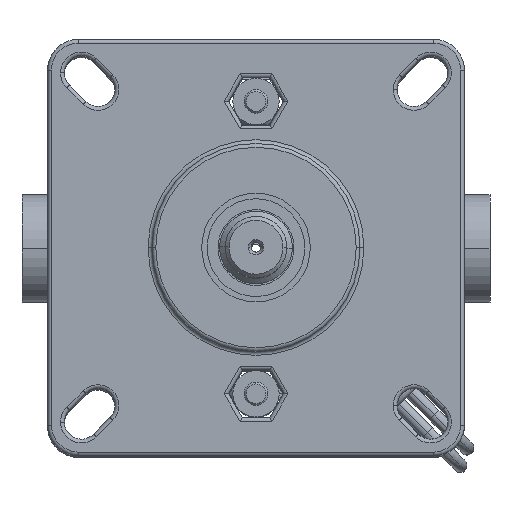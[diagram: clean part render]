
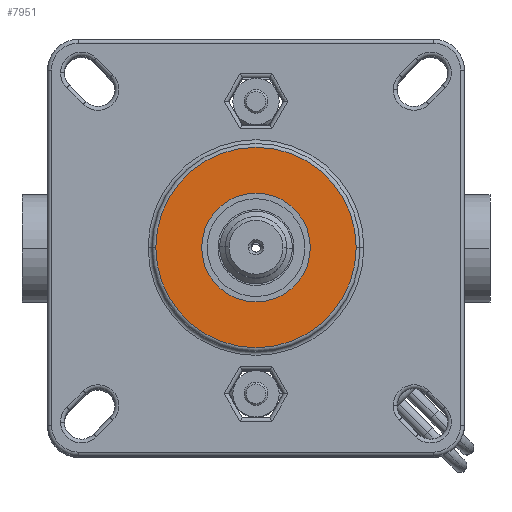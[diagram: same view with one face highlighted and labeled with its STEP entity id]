
A CAD part, top view. The second image highlights one B-rep face of the part: STEP entity #7951.
In plain terms, the highlighted planar face has unit normal (0, 0, 1).
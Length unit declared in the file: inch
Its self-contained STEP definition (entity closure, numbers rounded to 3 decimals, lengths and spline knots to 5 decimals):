
#1251 = CARTESIAN_POINT ( 'NONE',  ( -0.8115, 0., 7.374 ) ) ;
#1252 = DIRECTION ( 'NONE',  ( -1., 0., 0. ) ) ;
#1253 = DIRECTION ( 'NONE',  ( 0., 0., 1. ) ) ;
#1254 = CARTESIAN_POINT ( 'NONE',  ( 0., 0., 7.374 ) ) ;
#1255 = AXIS2_PLACEMENT_3D ( 'NONE', #1254, #1253, #1252 ) ;
#1256 = CIRCLE ( 'NONE', #1255, 0.8115 ) ;
#1257 = CARTESIAN_POINT ( 'NONE',  ( 0.8115, 0., 7.374 ) ) ;
#3309 = DIRECTION ( 'NONE',  ( -1., 0., 0. ) ) ;
#3310 = DIRECTION ( 'NONE',  ( 0., 0., 1. ) ) ;
#3311 = CARTESIAN_POINT ( 'NONE',  ( 0., 0., 7.374 ) ) ;
#3312 = AXIS2_PLACEMENT_3D ( 'NONE', #3311, #3310, #3309 ) ;
#3313 = CIRCLE ( 'NONE', #3312, 0.8115 ) ;
#3314 = DIRECTION ( 'NONE',  ( -1., 0., 0. ) ) ;
#3315 = DIRECTION ( 'NONE',  ( 0., 0., -1. ) ) ;
#3316 = CARTESIAN_POINT ( 'NONE',  ( 0., 0., 7.374 ) ) ;
#3317 = AXIS2_PLACEMENT_3D ( 'NONE', #3316, #3315, #3314 ) ;
#3318 = PLANE ( 'NONE',  #3317 ) ;
#3319 = FACE_BOUND ( 'NONE', #7956, .T. ) ;
#3320 = FACE_OUTER_BOUND ( 'NONE', #7952, .T. ) ;
#3326 = DIRECTION ( 'NONE',  ( -1., 0., 0. ) ) ;
#3327 = DIRECTION ( 'NONE',  ( 0., 0., -1. ) ) ;
#3328 = CARTESIAN_POINT ( 'NONE',  ( 0., 0., 7.374 ) ) ;
#3329 = AXIS2_PLACEMENT_3D ( 'NONE', #3328, #3327, #3326 ) ;
#3334 = CIRCLE ( 'NONE', #3329, 0.44 ) ;
#5596 = VERTEX_POINT ( 'NONE', #10543 ) ;
#5597 = VERTEX_POINT ( 'NONE', #10542 ) ;
#5599 = EDGE_CURVE ( 'NONE', #5596, #5597, #10540, .T. ) ;
#6964 = VERTEX_POINT ( 'NONE', #1257 ) ;
#6965 = EDGE_CURVE ( 'NONE', #6964, #6966, #1256, .T. ) ;
#6966 = VERTEX_POINT ( 'NONE', #1251 ) ;
#7947 = EDGE_CURVE ( 'NONE', #5597, #5596, #3334, .T. ) ;
#7951 = ADVANCED_FACE ( 'NONE', ( #3320, #3319 ), #3318, .F. ) ;
#7952 = EDGE_LOOP ( 'NONE', ( #7953, #7955 ) ) ;
#7953 = ORIENTED_EDGE ( 'NONE', *, *, #7954, .T. ) ;
#7954 = EDGE_CURVE ( 'NONE', #6966, #6964, #3313, .T. ) ;
#7955 = ORIENTED_EDGE ( 'NONE', *, *, #6965, .T. ) ;
#7956 = EDGE_LOOP ( 'NONE', ( #7957, #8015 ) ) ;
#7957 = ORIENTED_EDGE ( 'NONE', *, *, #7947, .T. ) ;
#8015 = ORIENTED_EDGE ( 'NONE', *, *, #5599, .T. ) ;
#10536 = DIRECTION ( 'NONE',  ( -1., 0., 0. ) ) ;
#10537 = DIRECTION ( 'NONE',  ( 0., 0., -1. ) ) ;
#10538 = CARTESIAN_POINT ( 'NONE',  ( 0., 0., 7.374 ) ) ;
#10539 = AXIS2_PLACEMENT_3D ( 'NONE', #10538, #10537, #10536 ) ;
#10540 = CIRCLE ( 'NONE', #10539, 0.44 ) ;
#10542 = CARTESIAN_POINT ( 'NONE',  ( -0.44, 0., 7.374 ) ) ;
#10543 = CARTESIAN_POINT ( 'NONE',  ( 0.44, 0., 7.374 ) ) ;
